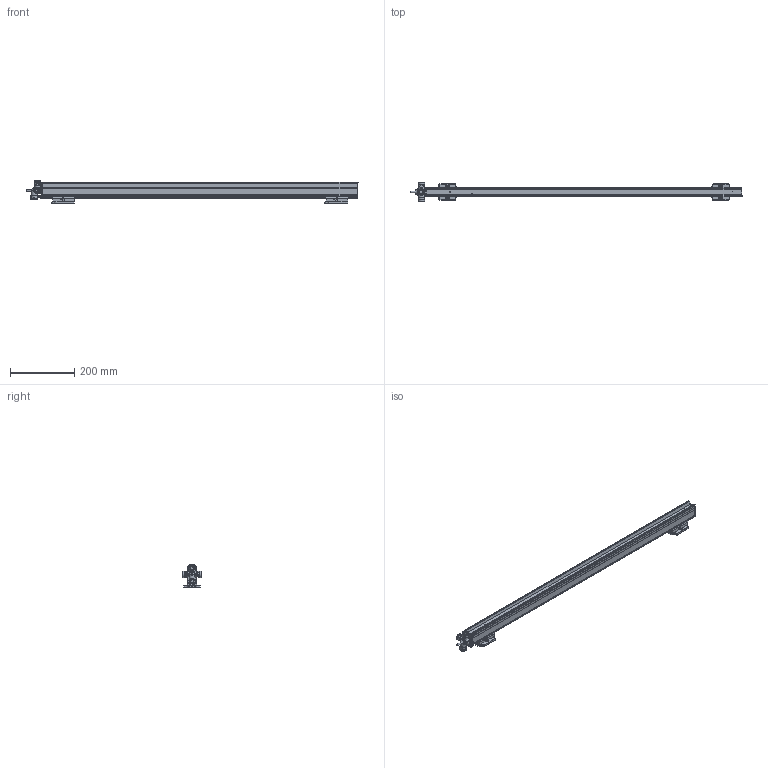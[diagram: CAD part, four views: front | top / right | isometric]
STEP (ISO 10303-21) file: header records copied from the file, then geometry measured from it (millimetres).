
FILE_DESCRIPTION(/* description */ (''),/* implementation_level */ '2;1');
FILE_NAME(/* name */ 'PERFORMAXEASYEX_0810_3D_GB',/* time_stamp */ '2017-05-31T09:47:04+02:00',/* author */ (''),/* organization */ (''),/* preprocessor_version */ 'ST-DEVELOPER v15.7',/* originating_system */ 'HiCAD 2015 2002.1 Build 408',/* authorisation */ '');
FILE_SCHEMA (('CONFIG_CONTROL_DESIGN'));
Length unit declared in the file: millimetre
Products named in the file (57): Root; -_Performax (IQ) Easy Ex 0810 eff (Hybrid + Speed); -_LED; -_PROFILE; -_POTTING; -_CAP DE; -_CAP CE; -_CABLE; -_PIN; -_COVER; 4532000100_Mounting bracket bars; -_Side piece; -_Slide piece; -_Bracket small; DIN 13-M3; DIN 76-M3; 2047507823_PE connection; DIN 916-M4x20-45H_Set screws; GEWINDE; ISO 8738-4-160 HV_Washers for studs; ISO 4032-M4-10_Hexagon nuts; DIN 127-A 4-FSt_Washers; 2047493713_Cable exits; -_Exit K; -_Clip; -_Gland body; -_Exit S; -_Exit Q; -_Washer ø20mm, 5mm thick for corr. conduit (exit
 Q); -_Exit I; -_Exit U; -_Exit A; Thread_2
Assembly tree (56 placements, depth 5):
  Root
    -_Performax (IQ) Easy Ex 0810 eff (Hybrid + Speed)
      -_LED
      -_PROFILE
      -_POTTING
      -_CAP DE
      -_CAP CE
      -_CABLE
      -_PIN
      -_PIN
      -_COVER
      4532000100_Mounting bracket bars
        -_Side piece
        -_Side piece
        -_Slide piece
        -_Bracket small
          DIN 13-M3
          DIN 13-M3
          DIN 76-M3
          DIN 76-M3
      4532000100_Mounting bracket bars
        -_Side piece
        -_Side piece
        -_Slide piece
        -_Bracket small
          DIN 13-M3
          DIN 13-M3
          DIN 76-M3
          DIN 76-M3
      2047507823_PE connection
        DIN 916-M4x20-45H_Set screws
          GEWINDE
        ISO 8738-4-160 HV_Washers for studs
        ISO 4032-M4-10_Hexagon nuts
          GEWINDE
        DIN 127-A 4-FSt_Washers
        ISO 4032-M4-10_Hexagon nuts
          GEWINDE
      2047493713_Cable exits
        -_Exit K
          -_Clip
          -_Gland body
        -_Exit S
          -_Clip
          -_Gland body
        -_Exit Q
          -_Clip
          -_Washer ø20mm, 5mm thick for corr. conduit (exit
 Q)
          -_Gland body
        -_Exit I
          -_Clip
          -_Gland body
        -_Exit U
          -_Clip
          -_Gland body
        -_Exit A
          Thread_2
Bounding box: 1032.4 x 58.79 x 68.9 mm (x, y, z)
Volume: 1245632.5 mm3; surface area: 374784.6 mm2
Topology: 47 solids, 53 shells, 1941 faces, 5010 edges, 3074 vertices
Faces by surface type: plane 913, cylinder 739, torus 91, sphere 87, bspline 64, cone 47
Full cylindrical faces by diameter (mm): 2.387 x8, 3 x16, 3.141 x4, 4 x5, 4.3 x1, 5.4 x2, 5.5 x10, 8 x2, 11.3 x4, 12.5 x4, 13 x1, 14.6 x5, 15.1 x5, 18.4 x4, 20 x7, 20.2 x4
Entity records: 107117 total; most frequent: CARTESIAN_POINT 22020, DIRECTION 10074, PRESENTATION_STYLE_ASSIGNMENT 9495, OVER_RIDING_STYLED_ITEM 9449, DRAUGHTING_PRE_DEFINED_CURVE_FONT 9436, CURVE_STYLE 9436, ORIENTED_EDGE 9436, EDGE_CURVE 4718
